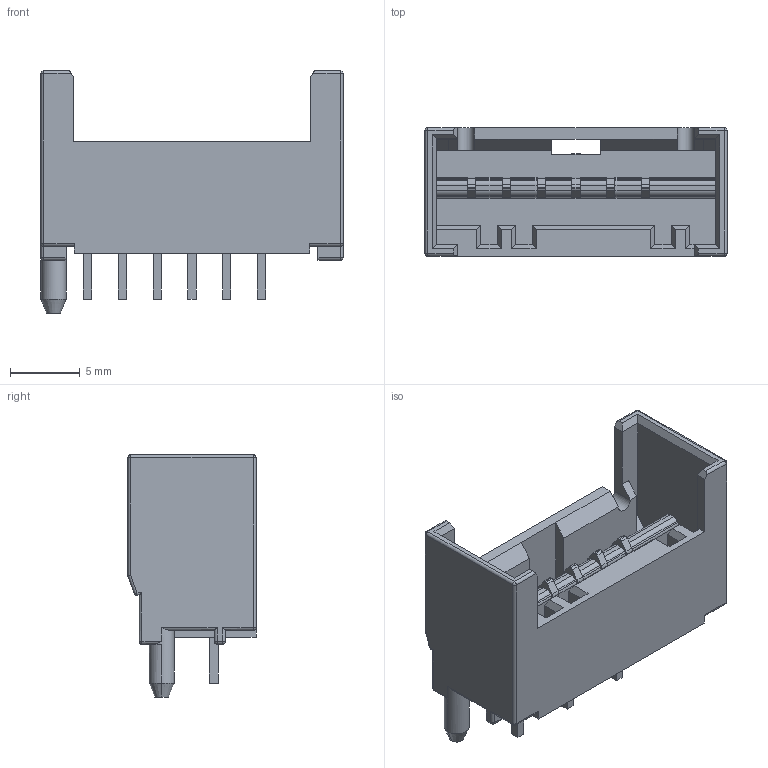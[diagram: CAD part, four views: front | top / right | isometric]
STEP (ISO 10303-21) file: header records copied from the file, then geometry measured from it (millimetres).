
FILE_DESCRIPTION((''),'2;1');
FILE_NAME('C-4-1971839-7','2013-05-24T',('workeradm'),('Tyco Electronics Ltd.'),'PRO/ENGINEER BY PARAMETRIC TECHNOLOGY CORPORATION, 2011490','PRO/ENGINEER BY PARAMETRIC TECHNOLOGY CORPORATION, 2011490','');
FILE_SCHEMA(('AUTOMOTIVE_DESIGN { 1 0 10303 214 1 1 1 1 }'));
Length unit declared in the file: millimetre
Products named in the file (1): C-4-1971839-7
Bounding box: 21.7 x 9.2 x 17.4 mm (x, y, z)
Volume: 989.1 mm3; surface area: 1765.6 mm2
Topology: 1 solids, 1 shells, 348 faces, 914 edges, 573 vertices
Faces by surface type: plane 220, cylinder 111, sphere 15, cone 2
Entity records: 11755 total; most frequent: CARTESIAN_POINT 2739, ORIENTED_EDGE 1828, DIRECTION 1796, EDGE_CURVE 914, VECTOR 698, LINE 698, VERTEX_POINT 573, AXIS2_PLACEMENT_3D 549
